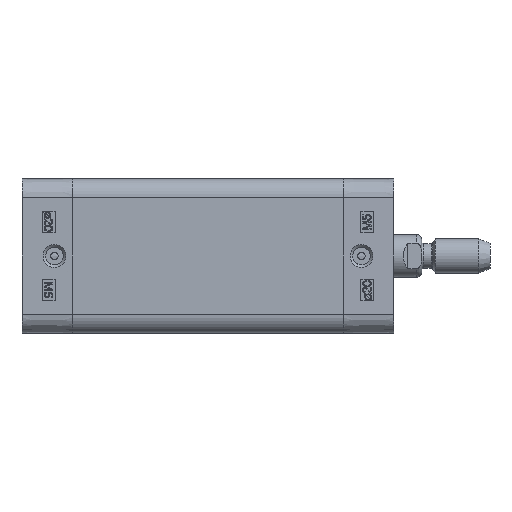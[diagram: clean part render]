
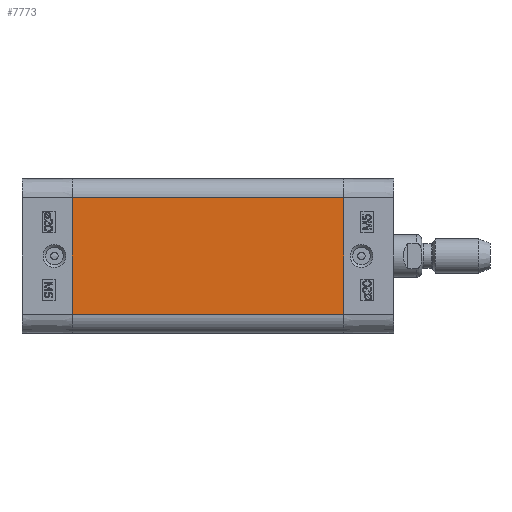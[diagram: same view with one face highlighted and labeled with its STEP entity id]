
A CAD part, left-side view. The second image highlights one B-rep face of the part: STEP entity #7773.
In plain terms, the highlighted planar face has unit normal (-1, 0, 0).
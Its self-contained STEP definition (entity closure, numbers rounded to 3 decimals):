
#6294=CARTESIAN_POINT('',(-18.15,-63.5,13.65));
#6295=VERTEX_POINT('',#6294);
#6302=CARTESIAN_POINT('',(-18.15,-63.5,-13.65));
#6303=VERTEX_POINT('',#6302);
#6304=CARTESIAN_POINT('',(-18.15,-63.5,-13.65));
#6305=DIRECTION('',(0.0,0.0,1.0));
#6306=VECTOR('',#6305,27.3);
#6307=LINE('',#6304,#6306);
#6308=EDGE_CURVE('',#6303,#6295,#6307,.T.);
#7731=CARTESIAN_POINT('',(-18.15,0.0,-13.65));
#7732=VERTEX_POINT('',#7731);
#7733=CARTESIAN_POINT('',(-18.15,0.0,-13.65));
#7734=DIRECTION('',(0.0,-1.0,0.0));
#7735=VECTOR('',#7734,63.5);
#7736=LINE('',#7733,#7735);
#7737=EDGE_CURVE('',#7732,#6303,#7736,.T.);
#7750=CARTESIAN_POINT('',(-18.15,0.0,-13.65));
#7751=DIRECTION('',(-1.0,0.0,0.0));
#7752=DIRECTION('',(0.0,0.0,1.0));
#7753=AXIS2_PLACEMENT_3D('',#7750,#7751,#7752);
#7754=PLANE('',#7753);
#7755=ORIENTED_EDGE('',*,*,#6308,.T.);
#7756=CARTESIAN_POINT('',(-18.15,0.0,13.65));
#7757=VERTEX_POINT('',#7756);
#7758=CARTESIAN_POINT('',(-18.15,0.0,13.65));
#7759=DIRECTION('',(0.0,-1.0,0.0));
#7760=VECTOR('',#7759,63.5);
#7761=LINE('',#7758,#7760);
#7762=EDGE_CURVE('',#7757,#6295,#7761,.T.);
#7763=ORIENTED_EDGE('',*,*,#7762,.F.);
#7764=CARTESIAN_POINT('',(-18.15,0.0,-13.65));
#7765=DIRECTION('',(0.0,0.0,1.0));
#7766=VECTOR('',#7765,27.3);
#7767=LINE('',#7764,#7766);
#7768=EDGE_CURVE('',#7732,#7757,#7767,.T.);
#7769=ORIENTED_EDGE('',*,*,#7768,.F.);
#7770=ORIENTED_EDGE('',*,*,#7737,.T.);
#7771=EDGE_LOOP('',(#7755,#7763,#7769,#7770));
#7772=FACE_OUTER_BOUND('',#7771,.T.);
#7773=ADVANCED_FACE('',(#7772),#7754,.T.);
